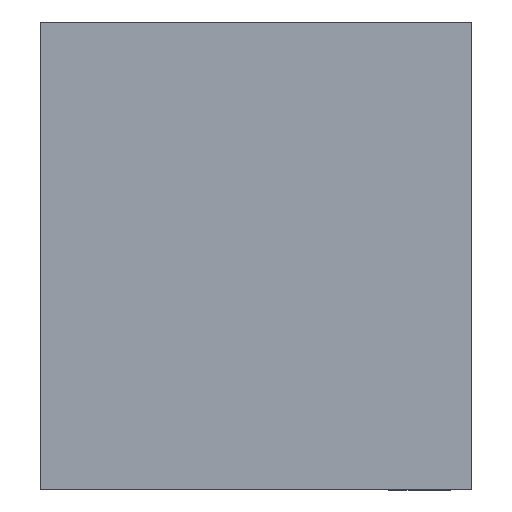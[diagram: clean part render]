
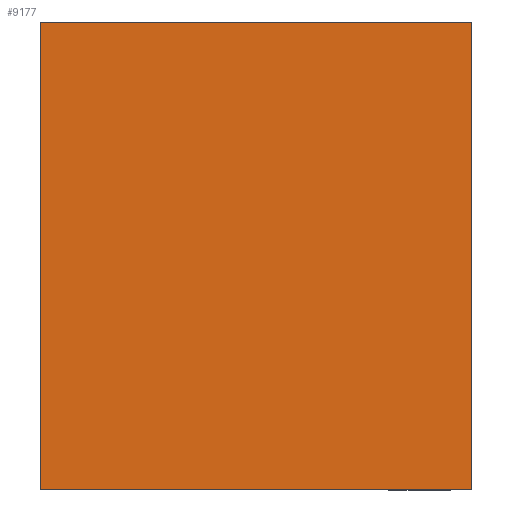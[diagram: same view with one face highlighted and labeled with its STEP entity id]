
A CAD part, left-side view. The second image highlights one B-rep face of the part: STEP entity #9177.
In plain terms, the highlighted planar face has unit normal (-1, 0, 0).
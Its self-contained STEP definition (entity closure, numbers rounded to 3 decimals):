
#3042 = EDGE_LOOP ( 'NONE', ( #25399, #26380, #27584, #28244 ) ) ;
#6096 = DIRECTION ( 'NONE',  ( 0., 0., 1. ) ) ;
#8497 = CARTESIAN_POINT ( 'NONE',  ( 0., -20.75, -23.207 ) ) ;
#8673 = FACE_OUTER_BOUND ( 'NONE', #3042, .T. ) ;
#9177 = ADVANCED_FACE ( 'NONE', ( #8673 ), #53154, .T. ) ;
#12072 = CARTESIAN_POINT ( 'NONE',  ( 0., -20.75, 22.5 ) ) ;
#12977 = LINE ( 'NONE', #28964, #43125 ) ;
#14166 = VERTEX_POINT ( 'NONE', #20256 ) ;
#17181 = DIRECTION ( 'NONE',  ( 0., 1., 0. ) ) ;
#20012 = EDGE_CURVE ( 'NONE', #54771, #55109, #29146, .T. ) ;
#20256 = CARTESIAN_POINT ( 'NONE',  ( 0., 20.75, 22.5 ) ) ;
#24286 = EDGE_CURVE ( 'NONE', #55109, #14166, #58867, .T. ) ;
#24626 = CARTESIAN_POINT ( 'NONE',  ( 0., -21.457, -22.5 ) ) ;
#25399 = ORIENTED_EDGE ( 'NONE', *, *, #29548, .F. ) ;
#26380 = ORIENTED_EDGE ( 'NONE', *, *, #34237, .F. ) ;
#27584 = ORIENTED_EDGE ( 'NONE', *, *, #20012, .T. ) ;
#28244 = ORIENTED_EDGE ( 'NONE', *, *, #24286, .T. ) ;
#28964 = CARTESIAN_POINT ( 'NONE',  ( 0., 20.75, -23.207 ) ) ;
#29146 = LINE ( 'NONE', #8497, #52012 ) ;
#29263 = DIRECTION ( 'NONE',  ( 0., 1., 0. ) ) ;
#29548 = EDGE_CURVE ( 'NONE', #36647, #14166, #12977, .T. ) ;
#34237 = EDGE_CURVE ( 'NONE', #54771, #36647, #54336, .T. ) ;
#36647 = VERTEX_POINT ( 'NONE', #45490 ) ;
#37922 = CARTESIAN_POINT ( 'NONE',  ( 0., 20.75, -22.5 ) ) ;
#38266 = AXIS2_PLACEMENT_3D ( 'NONE', #37922, #51459, #51071 ) ;
#42291 = VECTOR ( 'NONE', #29263, 1000. ) ;
#43125 = VECTOR ( 'NONE', #6096, 1000. ) ;
#44665 = CARTESIAN_POINT ( 'NONE',  ( 0., -21.457, 22.5 ) ) ;
#45490 = CARTESIAN_POINT ( 'NONE',  ( 0., 20.75, -22.5 ) ) ;
#46875 = VECTOR ( 'NONE', #17181, 1000. ) ;
#51071 = DIRECTION ( 'NONE',  ( 0., 0., 1. ) ) ;
#51459 = DIRECTION ( 'NONE',  ( -1., 0., 0. ) ) ;
#51483 = CARTESIAN_POINT ( 'NONE',  ( 0., -20.75, -22.5 ) ) ;
#52012 = VECTOR ( 'NONE', #54282, 1000. ) ;
#53154 = PLANE ( 'NONE',  #38266 ) ;
#54282 = DIRECTION ( 'NONE',  ( 0., 0., 1. ) ) ;
#54336 = LINE ( 'NONE', #24626, #42291 ) ;
#54771 = VERTEX_POINT ( 'NONE', #51483 ) ;
#55109 = VERTEX_POINT ( 'NONE', #12072 ) ;
#58867 = LINE ( 'NONE', #44665, #46875 ) ;
